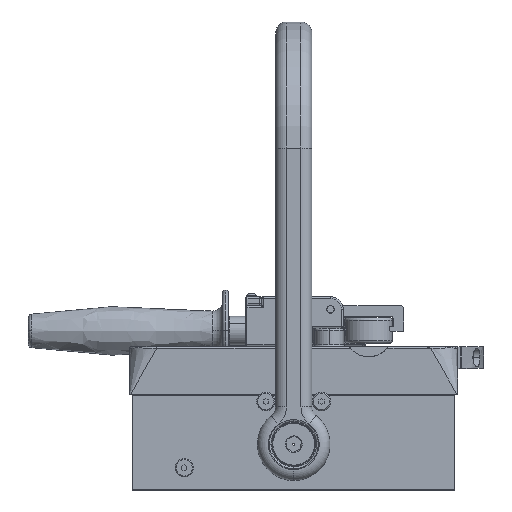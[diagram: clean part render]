
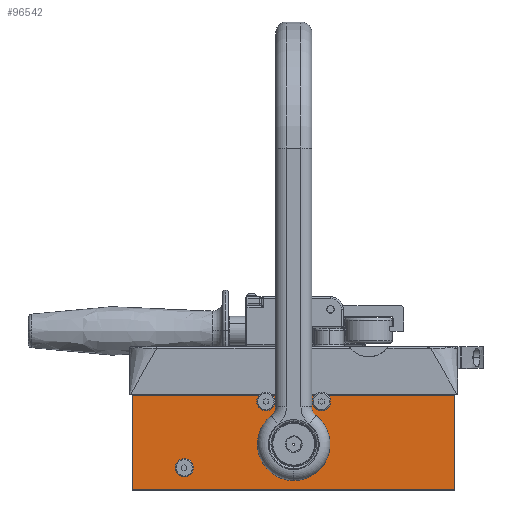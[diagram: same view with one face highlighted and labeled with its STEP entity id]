
A CAD part, top view. The second image highlights one B-rep face of the part: STEP entity #96542.
In plain terms, the highlighted planar face has unit normal (0, 0, 1).
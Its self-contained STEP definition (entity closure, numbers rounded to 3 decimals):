
#8642 = EDGE_LOOP ( 'NONE', ( #9448, #9449 ) ) ;
#8763 = EDGE_LOOP ( 'NONE', ( #9454, #9455 ) ) ;
#8781 = EDGE_LOOP ( 'NONE', ( #9456, #9457, #9458, #9459 ) ) ;
#8796 = EDGE_LOOP ( 'NONE', ( #9450, #9451 ) ) ;
#8799 = EDGE_LOOP ( 'NONE', ( #9452, #9453 ) ) ;
#9448 = ORIENTED_EDGE ( 'NONE', *, *, #54612, .F. ) ;
#9449 = ORIENTED_EDGE ( 'NONE', *, *, #53920, .F. ) ;
#9450 = ORIENTED_EDGE ( 'NONE', *, *, #54935, .F. ) ;
#9451 = ORIENTED_EDGE ( 'NONE', *, *, #54716, .F. ) ;
#9452 = ORIENTED_EDGE ( 'NONE', *, *, #55312, .F. ) ;
#9453 = ORIENTED_EDGE ( 'NONE', *, *, #55107, .F. ) ;
#9454 = ORIENTED_EDGE ( 'NONE', *, *, #53744, .F. ) ;
#9455 = ORIENTED_EDGE ( 'NONE', *, *, #53707, .F. ) ;
#9456 = ORIENTED_EDGE ( 'NONE', *, *, #55302, .T. ) ;
#9457 = ORIENTED_EDGE ( 'NONE', *, *, #53915, .T. ) ;
#9458 = ORIENTED_EDGE ( 'NONE', *, *, #53814, .F. ) ;
#9459 = ORIENTED_EDGE ( 'NONE', *, *, #71456, .F. ) ;
#11424 = LINE ( 'NONE', #13715, #11435 ) ;
#11435 = VECTOR ( 'NONE', #13717, 1000. ) ;
#13715 = CARTESIAN_POINT ( 'NONE',  ( -88.75, 0., 0. ) ) ;
#13717 = DIRECTION ( 'NONE',  ( 1., 0., 0. ) ) ;
#14980 = CARTESIAN_POINT ( 'NONE',  ( -146.5, -40., 0. ) ) ;
#14982 = CARTESIAN_POINT ( 'NONE',  ( -75.95, -3.5, 0. ) ) ;
#14983 = CARTESIAN_POINT ( 'NONE',  ( -82.75, -27., 0. ) ) ;
#15022 = CARTESIAN_POINT ( 'NONE',  ( -177.5, 0., 0. ) ) ;
#15023 = CARTESIAN_POINT ( 'NONE',  ( 0., 0., 0. ) ) ;
#15045 = CARTESIAN_POINT ( 'NONE',  ( 0., -52., 0. ) ) ;
#15047 = CARTESIAN_POINT ( 'NONE',  ( -177.5, -52., 0. ) ) ;
#15050 = CARTESIAN_POINT ( 'NONE',  ( -151.5, -40., 0. ) ) ;
#15051 = CARTESIAN_POINT ( 'NONE',  ( -101.55, -3.5, 0. ) ) ;
#15052 = CARTESIAN_POINT ( 'NONE',  ( -106.55, -3.5, 0. ) ) ;
#15053 = CARTESIAN_POINT ( 'NONE',  ( -70.95, -3.5, 0. ) ) ;
#15054 = CARTESIAN_POINT ( 'NONE',  ( -94.75, -27., 0. ) ) ;
#16510 = CIRCLE ( 'NONE', #94749, 6. ) ;
#16646 = CIRCLE ( 'NONE', #94752, 6. ) ;
#16851 = VECTOR ( 'NONE', #49260, 1000. ) ;
#16853 = LINE ( 'NONE', #49225, #16851 ) ;
#17164 = LINE ( 'NONE', #50926, #17166 ) ;
#17166 = VECTOR ( 'NONE', #50929, 1000. ) ;
#17188 = CIRCLE ( 'NONE', #94769, 2.5 ) ;
#18184 = CIRCLE ( 'NONE', #94791, 2.5 ) ;
#18237 = CIRCLE ( 'NONE', #94796, 2.5 ) ;
#47320 = CARTESIAN_POINT ( 'NONE',  ( -88.75, -27., 0. ) ) ;
#47324 = DIRECTION ( 'NONE',  ( 0., 0., 1. ) ) ;
#47327 = DIRECTION ( 'NONE',  ( 1., 0., 0. ) ) ;
#47832 = CARTESIAN_POINT ( 'NONE',  ( -88.75, -27., 0. ) ) ;
#47879 = DIRECTION ( 'NONE',  ( 0., 0., 1. ) ) ;
#47883 = DIRECTION ( 'NONE',  ( 1., 0., 0. ) ) ;
#49225 = CARTESIAN_POINT ( 'NONE',  ( 0., 0., 0. ) ) ;
#49260 = DIRECTION ( 'NONE',  ( 0., -1., 0. ) ) ;
#50926 = CARTESIAN_POINT ( 'NONE',  ( -177.5, -52., 0. ) ) ;
#50929 = DIRECTION ( 'NONE',  ( 1., 0., 0. ) ) ;
#50932 = CARTESIAN_POINT ( 'NONE',  ( -149., -40., 0. ) ) ;
#50965 = DIRECTION ( 'NONE',  ( 0., 0., 1. ) ) ;
#50968 = DIRECTION ( 'NONE',  ( 1., 0., 0. ) ) ;
#53611 = FACE_BOUND ( 'NONE', #8642, .T. ) ;
#53612 = FACE_OUTER_BOUND ( 'NONE', #8781, .T. ) ;
#53617 = FACE_BOUND ( 'NONE', #8796, .T. ) ;
#53619 = FACE_BOUND ( 'NONE', #8799, .T. ) ;
#53621 = FACE_BOUND ( 'NONE', #8763, .T. ) ;
#53707 = EDGE_CURVE ( 'NONE', #77272, #77201, #16510, .T. ) ;
#53744 = EDGE_CURVE ( 'NONE', #77201, #77272, #16646, .T. ) ;
#53814 = EDGE_CURVE ( 'NONE', #77241, #77263, #16853, .T. ) ;
#53915 = EDGE_CURVE ( 'NONE', #77265, #77263, #17164, .T. ) ;
#53920 = EDGE_CURVE ( 'NONE', #77268, #77198, #17188, .T. ) ;
#54612 = EDGE_CURVE ( 'NONE', #77198, #77268, #18184, .T. ) ;
#54716 = EDGE_CURVE ( 'NONE', #77270, #77269, #18237, .T. ) ;
#54935 = EDGE_CURVE ( 'NONE', #77269, #77270, #65844, .T. ) ;
#55107 = EDGE_CURVE ( 'NONE', #77200, #77271, #65900, .T. ) ;
#55302 = EDGE_CURVE ( 'NONE', #77240, #77265, #65984, .T. ) ;
#55312 = EDGE_CURVE ( 'NONE', #77271, #77200, #65996, .T. ) ;
#64631 = CARTESIAN_POINT ( 'NONE',  ( -104.05, -3.5, 0. ) ) ;
#64636 = DIRECTION ( 'NONE',  ( 0., 0., 1. ) ) ;
#64637 = DIRECTION ( 'NONE',  ( 1., 0., 0. ) ) ;
#65070 = CARTESIAN_POINT ( 'NONE',  ( -104.05, -3.5, 0. ) ) ;
#65071 = DIRECTION ( 'NONE',  ( 0., 0., 1. ) ) ;
#65072 = DIRECTION ( 'NONE',  ( 1., 0., 0. ) ) ;
#65317 = CARTESIAN_POINT ( 'NONE',  ( -73.45, -3.5, 0. ) ) ;
#65329 = DIRECTION ( 'NONE',  ( 0., 0., 1. ) ) ;
#65330 = DIRECTION ( 'NONE',  ( 1., 0., 0. ) ) ;
#65751 = CARTESIAN_POINT ( 'NONE',  ( -177.5, 0., 0. ) ) ;
#65752 = DIRECTION ( 'NONE',  ( 0., -1., 0. ) ) ;
#65779 = CARTESIAN_POINT ( 'NONE',  ( -73.45, -3.5, 0. ) ) ;
#65813 = DIRECTION ( 'NONE',  ( 0., 0., 1. ) ) ;
#65814 = DIRECTION ( 'NONE',  ( 1., 0., 0. ) ) ;
#65844 = CIRCLE ( 'NONE', #94807, 2.5 ) ;
#65900 = CIRCLE ( 'NONE', #94811, 2.5 ) ;
#65984 = LINE ( 'NONE', #65751, #65985 ) ;
#65985 = VECTOR ( 'NONE', #65752, 1000. ) ;
#65996 = CIRCLE ( 'NONE', #94814, 2.5 ) ;
#70913 = AXIS2_PLACEMENT_3D ( 'NONE', #73158, #73172, #73175 ) ;
#71456 = EDGE_CURVE ( 'NONE', #77240, #77241, #11424, .T. ) ;
#73155 = PLANE ( 'NONE',  #70913 ) ;
#73158 = CARTESIAN_POINT ( 'NONE',  ( -88.75, 0., 0. ) ) ;
#73172 = DIRECTION ( 'NONE',  ( 0., 0., -1. ) ) ;
#73175 = DIRECTION ( 'NONE',  ( -1., 0., 0. ) ) ;
#77198 = VERTEX_POINT ( 'NONE', #14980 ) ;
#77200 = VERTEX_POINT ( 'NONE', #14982 ) ;
#77201 = VERTEX_POINT ( 'NONE', #14983 ) ;
#77240 = VERTEX_POINT ( 'NONE', #15022 ) ;
#77241 = VERTEX_POINT ( 'NONE', #15023 ) ;
#77263 = VERTEX_POINT ( 'NONE', #15045 ) ;
#77265 = VERTEX_POINT ( 'NONE', #15047 ) ;
#77268 = VERTEX_POINT ( 'NONE', #15050 ) ;
#77269 = VERTEX_POINT ( 'NONE', #15051 ) ;
#77270 = VERTEX_POINT ( 'NONE', #15052 ) ;
#77271 = VERTEX_POINT ( 'NONE', #15053 ) ;
#77272 = VERTEX_POINT ( 'NONE', #15054 ) ;
#89187 = CARTESIAN_POINT ( 'NONE',  ( -149., -40., 0. ) ) ;
#89196 = DIRECTION ( 'NONE',  ( 0., 0., 1. ) ) ;
#89198 = DIRECTION ( 'NONE',  ( 1., 0., 0. ) ) ;
#94749 = AXIS2_PLACEMENT_3D ( 'NONE', #47320, #47324, #47327 ) ;
#94752 = AXIS2_PLACEMENT_3D ( 'NONE', #47832, #47879, #47883 ) ;
#94769 = AXIS2_PLACEMENT_3D ( 'NONE', #50932, #50965, #50968 ) ;
#94791 = AXIS2_PLACEMENT_3D ( 'NONE', #89187, #89196, #89198 ) ;
#94796 = AXIS2_PLACEMENT_3D ( 'NONE', #64631, #64636, #64637 ) ;
#94807 = AXIS2_PLACEMENT_3D ( 'NONE', #65070, #65071, #65072 ) ;
#94811 = AXIS2_PLACEMENT_3D ( 'NONE', #65317, #65329, #65330 ) ;
#94814 = AXIS2_PLACEMENT_3D ( 'NONE', #65779, #65813, #65814 ) ;
#96542 = ADVANCED_FACE ( 'NONE', ( #53611, #53617, #53619, #53621, #53612 ), #73155, .F. ) ;
